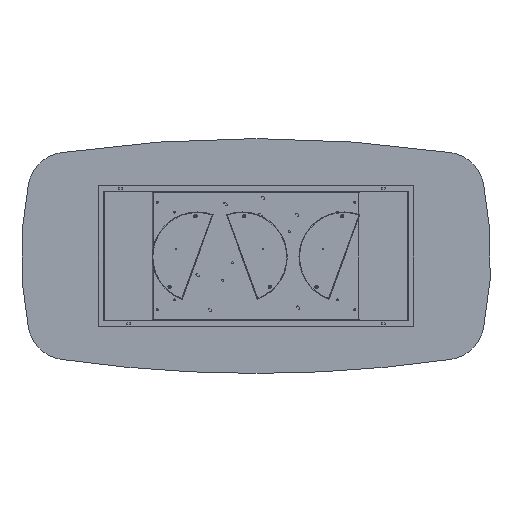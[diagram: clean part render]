
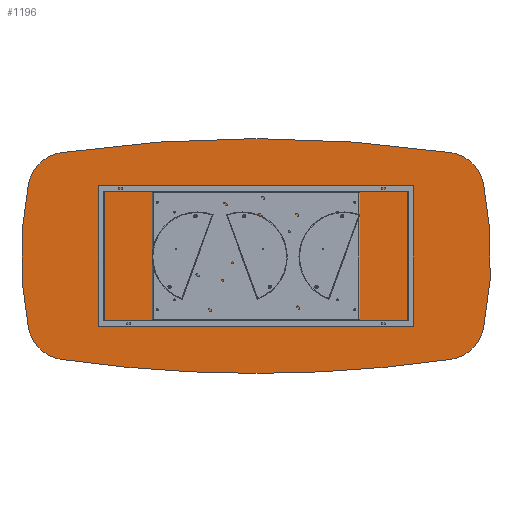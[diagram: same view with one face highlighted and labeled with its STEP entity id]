
A CAD part, front view. The second image highlights one B-rep face of the part: STEP entity #1196.
In plain terms, the highlighted planar face has unit normal (0, -1, 0).
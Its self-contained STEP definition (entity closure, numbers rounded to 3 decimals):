
#35 = DIRECTION ( 'NONE',  ( 0., -1., 0. ) ) ;
#106 = CARTESIAN_POINT ( 'NONE',  ( -1162.39, 0., -370.629 ) ) ;
#399 = DIRECTION ( 'NONE',  ( 0., 0., 1. ) ) ;
#432 = CARTESIAN_POINT ( 'NONE',  ( -966.467, 0., 330.452 ) ) ;
#531 = EDGE_CURVE ( 'NONE', #7152, #13407, #13503, .T. ) ;
#686 = DIRECTION ( 'NONE',  ( 0., 1., 0. ) ) ;
#749 = AXIS2_PLACEMENT_3D ( 'NONE', #5931, #35, #399 ) ;
#818 = EDGE_CURVE ( 'NONE', #7678, #6095, #9557, .T. ) ;
#959 = DIRECTION ( 'NONE',  ( 0., 0., 1. ) ) ;
#1196 = ADVANCED_FACE ( 'NONE', ( #8041 ), #8132, .F. ) ;
#1573 = EDGE_CURVE ( 'NONE', #14029, #9511, #7464, .T. ) ;
#1956 = CARTESIAN_POINT ( 'NONE',  ( 0., 0., -600. ) ) ;
#2389 = DIRECTION ( 'NONE',  ( 0., 0., 1. ) ) ;
#2474 = ORIENTED_EDGE ( 'NONE', *, *, #818, .F. ) ;
#2597 = EDGE_LOOP ( 'NONE', ( #16557, #15157, #4700, #9098, #7458, #2474, #5758, #16306, #9994 ) ) ;
#2910 = CARTESIAN_POINT ( 'NONE',  ( 1162.39, 0., 370.629 ) ) ;
#2976 = CIRCLE ( 'NONE', #17249, 1845. ) ;
#3644 = DIRECTION ( 'NONE',  ( 0., 0., 1. ) ) ;
#3810 = CARTESIAN_POINT ( 'NONE',  ( 0., 0., 6350. ) ) ;
#3894 = CIRCLE ( 'NONE', #14533, 6950. ) ;
#4333 = DIRECTION ( 'NONE',  ( 0., 0., 1. ) ) ;
#4427 = AXIS2_PLACEMENT_3D ( 'NONE', #432, #16036, #4604 ) ;
#4604 = DIRECTION ( 'NONE',  ( 0., 0., 1. ) ) ;
#4700 = ORIENTED_EDGE ( 'NONE', *, *, #14775, .F. ) ;
#4743 = EDGE_CURVE ( 'NONE', #6095, #7121, #10966, .T. ) ;
#5758 = ORIENTED_EDGE ( 'NONE', *, *, #14614, .T. ) ;
#5770 = DIRECTION ( 'NONE',  ( 0., -1., 0. ) ) ;
#5931 = CARTESIAN_POINT ( 'NONE',  ( 966.467, 0., 330.452 ) ) ;
#6095 = VERTEX_POINT ( 'NONE', #1956 ) ;
#6564 = CARTESIAN_POINT ( 'NONE',  ( -995.103, 0., 528.391 ) ) ;
#6814 = DIRECTION ( 'NONE',  ( 0., 1., 0. ) ) ;
#7121 = VERTEX_POINT ( 'NONE', #8504 ) ;
#7152 = VERTEX_POINT ( 'NONE', #2910 ) ;
#7458 = ORIENTED_EDGE ( 'NONE', *, *, #4743, .F. ) ;
#7464 = CIRCLE ( 'NONE', #4427, 200. ) ;
#7678 = VERTEX_POINT ( 'NONE', #8482 ) ;
#7810 = CIRCLE ( 'NONE', #18156, 200. ) ;
#7930 = VERTEX_POINT ( 'NONE', #13600 ) ;
#7940 = DIRECTION ( 'NONE',  ( 0., 1., 0. ) ) ;
#8041 = FACE_OUTER_BOUND ( 'NONE', #2597, .T. ) ;
#8132 = PLANE ( 'NONE',  #8958 ) ;
#8239 = DIRECTION ( 'NONE',  ( 0., -1., 0. ) ) ;
#8482 = CARTESIAN_POINT ( 'NONE',  ( 995.103, 0., -528.391 ) ) ;
#8504 = CARTESIAN_POINT ( 'NONE',  ( -995.103, 0., -528.391 ) ) ;
#8530 = AXIS2_PLACEMENT_3D ( 'NONE', #18426, #6814, #18237 ) ;
#8958 = AXIS2_PLACEMENT_3D ( 'NONE', #17943, #7940, #15184 ) ;
#9098 = ORIENTED_EDGE ( 'NONE', *, *, #9213, .T. ) ;
#9213 = EDGE_CURVE ( 'NONE', #18632, #7121, #7810, .T. ) ;
#9312 = EDGE_CURVE ( 'NONE', #7152, #7930, #2976, .T. ) ;
#9511 = VERTEX_POINT ( 'NONE', #18555 ) ;
#9557 = CIRCLE ( 'NONE', #15033, 6950. ) ;
#9994 = ORIENTED_EDGE ( 'NONE', *, *, #531, .T. ) ;
#10065 = AXIS2_PLACEMENT_3D ( 'NONE', #13850, #8239, #18246 ) ;
#10966 = CIRCLE ( 'NONE', #8530, 6950. ) ;
#10969 = CARTESIAN_POINT ( 'NONE',  ( 0., 0., -6350. ) ) ;
#11294 = AXIS2_PLACEMENT_3D ( 'NONE', #12047, #17939, #17845 ) ;
#11703 = EDGE_CURVE ( 'NONE', #14029, #13407, #3894, .T. ) ;
#12047 = CARTESIAN_POINT ( 'NONE',  ( 645., 0., 0. ) ) ;
#13171 = CARTESIAN_POINT ( 'NONE',  ( -966.467, 0., -330.452 ) ) ;
#13407 = VERTEX_POINT ( 'NONE', #16204 ) ;
#13503 = CIRCLE ( 'NONE', #749, 200. ) ;
#13600 = CARTESIAN_POINT ( 'NONE',  ( 1162.39, 0., -370.629 ) ) ;
#13694 = CARTESIAN_POINT ( 'NONE',  ( -645., 0., 0. ) ) ;
#13850 = CARTESIAN_POINT ( 'NONE',  ( 966.467, 0., -330.452 ) ) ;
#13904 = DIRECTION ( 'NONE',  ( 0., 1., 0. ) ) ;
#14029 = VERTEX_POINT ( 'NONE', #6564 ) ;
#14533 = AXIS2_PLACEMENT_3D ( 'NONE', #10969, #13904, #3644 ) ;
#14614 = EDGE_CURVE ( 'NONE', #7678, #7930, #18273, .T. ) ;
#14775 = EDGE_CURVE ( 'NONE', #18632, #9511, #16168, .T. ) ;
#15033 = AXIS2_PLACEMENT_3D ( 'NONE', #3810, #15422, #2389 ) ;
#15157 = ORIENTED_EDGE ( 'NONE', *, *, #1573, .T. ) ;
#15184 = DIRECTION ( 'NONE',  ( 0., 0., 1. ) ) ;
#15422 = DIRECTION ( 'NONE',  ( 0., 1., 0. ) ) ;
#16036 = DIRECTION ( 'NONE',  ( 0., -1., 0. ) ) ;
#16168 = CIRCLE ( 'NONE', #11294, 1845. ) ;
#16204 = CARTESIAN_POINT ( 'NONE',  ( 995.103, 0., 528.391 ) ) ;
#16306 = ORIENTED_EDGE ( 'NONE', *, *, #9312, .F. ) ;
#16557 = ORIENTED_EDGE ( 'NONE', *, *, #11703, .F. ) ;
#17249 = AXIS2_PLACEMENT_3D ( 'NONE', #13694, #686, #959 ) ;
#17845 = DIRECTION ( 'NONE',  ( 0., 0., 1. ) ) ;
#17939 = DIRECTION ( 'NONE',  ( 0., 1., 0. ) ) ;
#17943 = CARTESIAN_POINT ( 'NONE',  ( -322.5, 0., 3175. ) ) ;
#18156 = AXIS2_PLACEMENT_3D ( 'NONE', #13171, #5770, #4333 ) ;
#18237 = DIRECTION ( 'NONE',  ( 0., 0., 1. ) ) ;
#18246 = DIRECTION ( 'NONE',  ( 0., 0., 1. ) ) ;
#18273 = CIRCLE ( 'NONE', #10065, 200. ) ;
#18426 = CARTESIAN_POINT ( 'NONE',  ( 0., 0., 6350. ) ) ;
#18555 = CARTESIAN_POINT ( 'NONE',  ( -1162.39, 0., 370.629 ) ) ;
#18632 = VERTEX_POINT ( 'NONE', #106 ) ;
